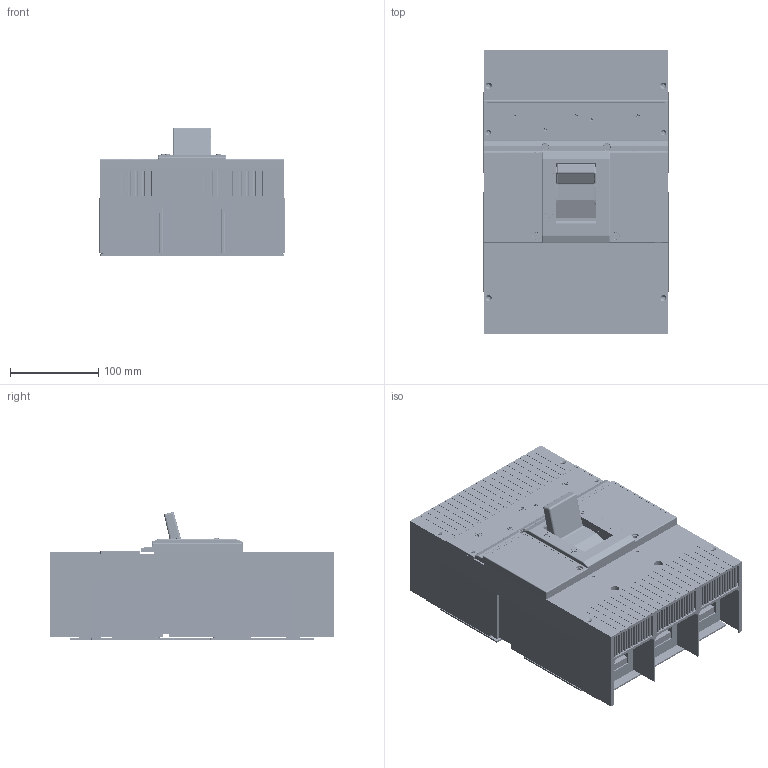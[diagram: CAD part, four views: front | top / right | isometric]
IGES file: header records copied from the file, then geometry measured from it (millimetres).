
Start section: SolidWorks IGES file using analytic representation for surfaces
Global section: file name: \\Brjgs100\DFSWEG\GROUPS\BR_SC_JGS_WA_TECNICO\ENG\Usuarios\Rodrigob\conversão\Disjuntor de Caixa Moldada\Produto\DWB800-IWB800\DWB800-IWB800.IGS; native system: SolidWorks 2018; preprocessor: SolidWorks 2018; author: rodrigob; date: 210222.090008; units: millimetre
Bounding box: 210.67 x 323 x 145.05 mm (x, y, z)
Surface area: 856701.1 mm2 (no closed solid volume)
Topology: 0 solids, 0 shells, 3495 faces, 38888 edges, 38838 vertices
Faces by surface type: bspline 2181, revolution 1314
